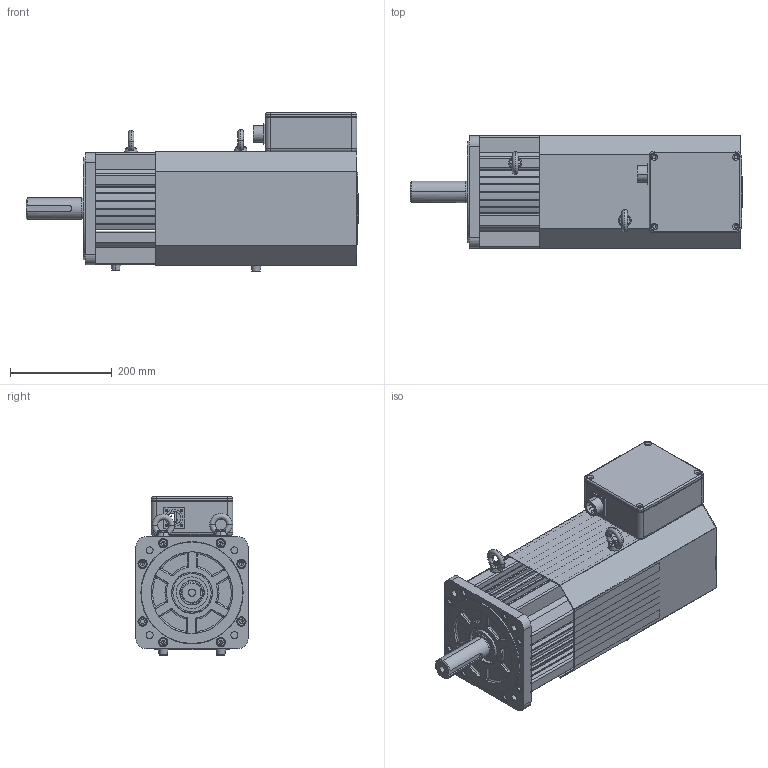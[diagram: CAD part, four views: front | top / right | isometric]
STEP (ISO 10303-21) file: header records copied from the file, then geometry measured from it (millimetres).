
FILE_DESCRIPTION (( 'STEP AP203' ), '1' );
FILE_NAME ('MS5G-220STE-CS140015B-422P0.STEP', '2020-03-02T01:19:22', ( '' ), ( '' ), 'SwSTEP 2.0', 'SolidWorks 2016', '' );
FILE_SCHEMA (( 'CONFIG_CONTROL_DESIGN' ));
Length unit declared in the file: millimetre
Products named in the file (1): MS5G-220STE-CS140015B-422P0
Bounding box: 651 x 223 x 310.5 mm (x, y, z)
Surface area: 1503707.5 mm2 (no closed solid volume)
Topology: 0 solids, 279 shells, 1581 faces, 5491 edges, 4010 vertices
Faces by surface type: cylinder 822, plane 535, torus 109, cone 81, sphere 28, bspline 6
Entity records: 61901 total; most frequent: CARTESIAN_POINT 14290, DIRECTION 10821, ORIENTED_EDGE 7961, EDGE_CURVE 5443, AXIS2_PLACEMENT_3D 3999, VERTEX_POINT 3998, LINE 2823, VECTOR 2823
